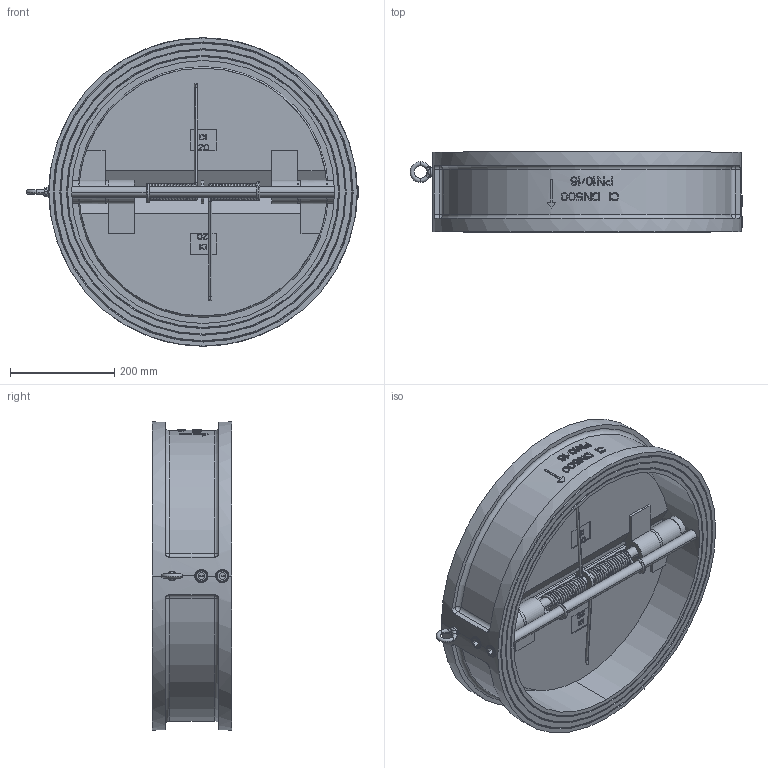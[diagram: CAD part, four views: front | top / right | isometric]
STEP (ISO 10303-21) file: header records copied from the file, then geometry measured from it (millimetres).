
FILE_DESCRIPTION((''),'2;1');
FILE_NAME('20CUN_ASM','2014-07-07T',('Administrator'),(''),'PRO/ENGINEER BY PARAMETRIC TECHNOLOGY CORPORATION, 2010370','PRO/ENGINEER BY PARAMETRIC TECHNOLOGY CORPORATION, 2010370','');
FILE_SCHEMA(('CONFIG_CONTROL_DESIGN'));
Products named in the file (10): CP_500-BODY__; CP_20-BAN_; CP_20_; CP_0-0__; CP_20-18_; CP_M24_; CP_18-20_; CP_22_; CP_M12-DIAOHUAN_; 20CUN_ASM
Assembly tree (21 placements, depth 2):
  20CUN_ASM
    CP_500-BODY__
    CP_20-BAN_  x2
    CP_20_  x2
    CP_0-0__  x2
    CP_20-18_  x4
    CP_M24_  x4
    CP_18-20_  x3
    CP_22_  x2
    CP_M12-DIAOHUAN_
Bounding box: 637.5 x 153 x 592 mm (x, y, z)
Volume: 16675116.5 mm3; surface area: 1540445.7 mm2
Topology: 25 solids, 25 shells, 1226 faces, 3312 edges, 2158 vertices
Faces by surface type: plane 785, cylinder 209, bspline 138, cone 56, torus 30, sphere 8
Entity records: 45841 total; most frequent: CARTESIAN_POINT 25091, ORIENTED_EDGE 4852, DIRECTION 3376, EDGE_CURVE 2426, VERTEX_POINT 1602, AXIS2_PLACEMENT_3D 1140, VECTOR 1096, LINE 1096
